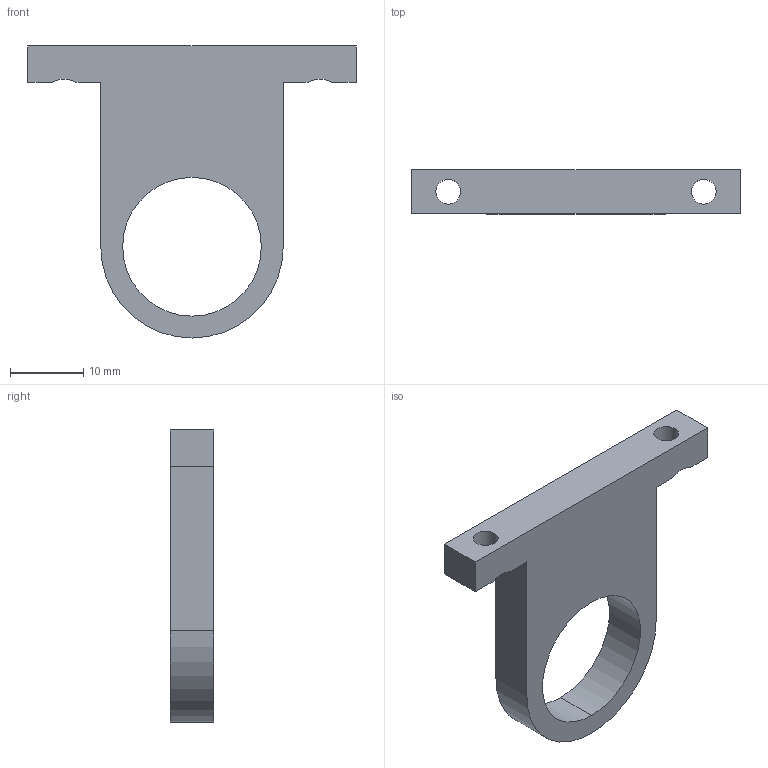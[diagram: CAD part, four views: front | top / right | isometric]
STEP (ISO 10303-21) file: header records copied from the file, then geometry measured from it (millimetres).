
FILE_DESCRIPTION(/* description */ (''),/* implementation_level */ '2;1');
FILE_NAME(/* name */ 'CWC-CY0011-P99_Bearing Bracket.stp',/* time_stamp */ '2026-02-19T10:15:44+01:00',/* author */ (''),/* organization */ (''),/* preprocessor_version */ 'ST-DEVELOPER v18.1',/* originating_system */ 'SIEMENS PLM Software NX 1988',/* authorisation */ '');
FILE_SCHEMA (('AUTOMOTIVE_DESIGN { 1 0 10303 214 3 1 1 1 }'));
Length unit declared in the file: millimetre
Products named in the file (1): anto80DCB5E9ljgu
Bounding box: 45 x 6 x 40 mm (x, y, z)
Volume: 4361.5 mm3; surface area: 2863 mm2
Topology: 1 solids, 1 shells, 19 faces, 55 edges, 36 vertices
Faces by surface type: plane 11, cylinder 6, cone 2
Full cylindrical faces by diameter (mm): 3.4 x2
Entity records: 647 total; most frequent: CARTESIAN_POINT 123, DIRECTION 101, ORIENTED_EDGE 98, EDGE_CURVE 49, AXIS2_PLACEMENT_3D 36, VERTEX_POINT 34, LINE 29, VECTOR 29
